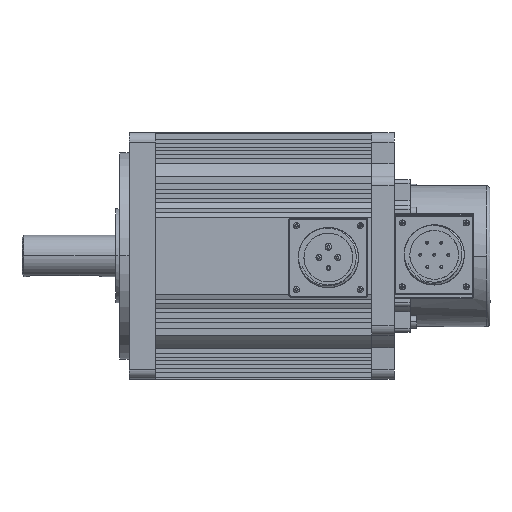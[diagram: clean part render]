
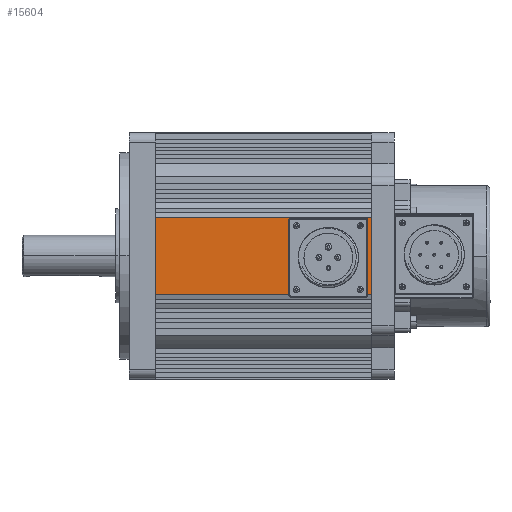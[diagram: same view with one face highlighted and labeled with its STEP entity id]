
A CAD part, top view. The second image highlights one B-rep face of the part: STEP entity #15604.
In plain terms, the highlighted planar face has unit normal (0, 0, 1).
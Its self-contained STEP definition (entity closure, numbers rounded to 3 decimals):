
#46 = ORIENTED_EDGE ( 'NONE', *, *, #44024, .T. ) ;
#1076 = CARTESIAN_POINT ( 'NONE',  ( 115., 85.927, 0. ) ) ;
#1427 = EDGE_CURVE ( 'NONE', #43628, #10583, #29439, .T. ) ;
#1642 = CARTESIAN_POINT ( 'NONE',  ( 0., 45.175, 0. ) ) ;
#1700 = EDGE_CURVE ( 'NONE', #22886, #17870, #10823, .T. ) ;
#1812 = VECTOR ( 'NONE', #19981, 1000. ) ;
#2136 = ORIENTED_EDGE ( 'NONE', *, *, #1427, .T. ) ;
#3520 = CARTESIAN_POINT ( 'NONE',  ( 0., 85.927, 0. ) ) ;
#3742 = DIRECTION ( 'NONE',  ( -1., 0., 0. ) ) ;
#3833 = EDGE_LOOP ( 'NONE', ( #46, #30758, #21581, #2136 ) ) ;
#5278 = DIRECTION ( 'NONE',  ( 0., 1., 0. ) ) ;
#5739 = CARTESIAN_POINT ( 'NONE',  ( 115., 65.551, 0. ) ) ;
#7077 = EDGE_CURVE ( 'NONE', #43628, #17870, #16911, .T. ) ;
#9032 = PLANE ( 'NONE',  #36859 ) ;
#9261 = VECTOR ( 'NONE', #5278, 1000. ) ;
#10583 = VERTEX_POINT ( 'NONE', #1076 ) ;
#10823 = LINE ( 'NONE', #39196, #1812 ) ;
#12282 = DIRECTION ( 'NONE',  ( -1., 0., 0. ) ) ;
#12465 = DIRECTION ( 'NONE',  ( 1., 0., 0. ) ) ;
#15604 = ADVANCED_FACE ( 'NONE', ( #15996 ), #9032, .T. ) ;
#15996 = FACE_OUTER_BOUND ( 'NONE', #3833, .T. ) ;
#16911 = LINE ( 'NONE', #27310, #33902 ) ;
#17870 = VERTEX_POINT ( 'NONE', #1642 ) ;
#18215 = VECTOR ( 'NONE', #12282, 1000. ) ;
#19981 = DIRECTION ( 'NONE',  ( 0., -1., 0. ) ) ;
#21581 = ORIENTED_EDGE ( 'NONE', *, *, #7077, .F. ) ;
#22886 = VERTEX_POINT ( 'NONE', #3520 ) ;
#27310 = CARTESIAN_POINT ( 'NONE',  ( 0., 45.175, 0. ) ) ;
#29167 = CARTESIAN_POINT ( 'NONE',  ( 0., 85.927, 0. ) ) ;
#29439 = LINE ( 'NONE', #5739, #9261 ) ;
#30758 = ORIENTED_EDGE ( 'NONE', *, *, #1700, .T. ) ;
#32791 = DIRECTION ( 'NONE',  ( 0., 0., 1. ) ) ;
#33902 = VECTOR ( 'NONE', #3742, 1000. ) ;
#36263 = LINE ( 'NONE', #29167, #18215 ) ;
#36794 = CARTESIAN_POINT ( 'NONE',  ( 115., 45.175, 0. ) ) ;
#36859 = AXIS2_PLACEMENT_3D ( 'NONE', #38880, #32791, #12465 ) ;
#38880 = CARTESIAN_POINT ( 'NONE',  ( 0., 65.551, 0. ) ) ;
#39196 = CARTESIAN_POINT ( 'NONE',  ( 0., 65.551, 0. ) ) ;
#43628 = VERTEX_POINT ( 'NONE', #36794 ) ;
#44024 = EDGE_CURVE ( 'NONE', #10583, #22886, #36263, .T. ) ;
